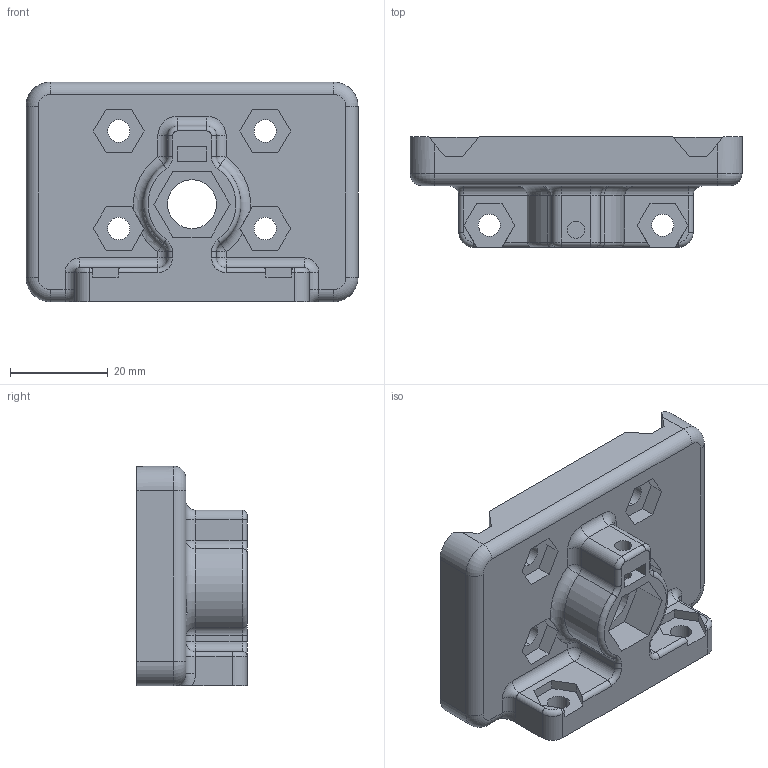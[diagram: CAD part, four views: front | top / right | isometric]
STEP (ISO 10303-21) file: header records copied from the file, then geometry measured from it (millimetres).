
FILE_DESCRIPTION (( 'STEP AP203' ), '1' );
FILE_NAME ('X ROD MOUNT BOTTOM.STEP', '2012-08-20T19:13:08', ( '' ), ( '' ), 'SwSTEP 2.0', 'SolidWorks 2012', '' );
FILE_SCHEMA (( 'CONFIG_CONTROL_DESIGN' ));
Length unit declared in the file: millimetre
Products named in the file (1): X ROD MOUNT BOTTOM
Bounding box: 68 x 22.55 x 45 mm (x, y, z)
Volume: 33076.6 mm3; surface area: 11954.8 mm2
Topology: 1 solids, 1 shells, 165 faces, 427 edges, 262 vertices
Faces by surface type: plane 76, cylinder 59, torus 24, sphere 6
Entity records: 5094 total; most frequent: CARTESIAN_POINT 905, DIRECTION 889, ORIENTED_EDGE 842, EDGE_CURVE 421, AXIS2_PLACEMENT_3D 314, VERTEX_POINT 262, VECTOR 261, LINE 261
